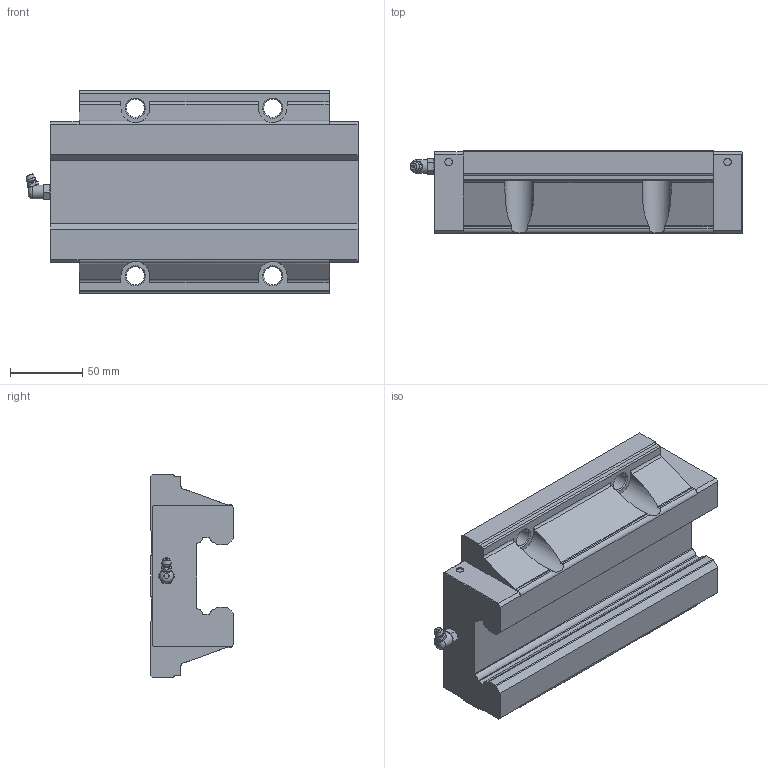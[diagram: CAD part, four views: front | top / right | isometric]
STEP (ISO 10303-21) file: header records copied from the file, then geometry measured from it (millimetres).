
FILE_DESCRIPTION(/* description */ ('STEP AP203'),/* implementation_level */ '2;1');
FILE_NAME(/* name */ 'SHS55LC1SS(GK) BLOCK(B-PT1_81)',/* time_stamp */ '2024-05-14T04:36:39+02:00',/* author */ ('License CC BY-ND 4.0'),/* organization */ ('CADENAS'),/* preprocessor_version */ 'ST-DEVELOPER v19.3',/* originating_system */ 'PARTsolutions',/* authorisation */ ' ');
FILE_SCHEMA (('CONFIG_CONTROL_DESIGN'));
Length unit declared in the file: millimetre
Products named in the file (3): SHS55LC1SS(GK) BLOCK(B-PT1/81); SHS55LCSSB-PT1/81 Slide25-55; B-PT1/8-SHS_grease_nipple_joint
Assembly tree (2 placements, depth 2):
  SHS55LC1SS(GK) BLOCK(B-PT1/81)
    SHS55LCSSB-PT1/81 Slide25-55
    B-PT1/8-SHS_grease_nipple_joint
Bounding box: 229.7 x 57.3 x 140 mm (x, y, z)
Volume: 1130385 mm3; surface area: 104812.7 mm2
Topology: 2 solids, 2 shells, 171 faces, 468 edges, 307 vertices
Faces by surface type: plane 99, cylinder 47, cone 20, torus 3, sphere 2
Full cylindrical faces by diameter (mm): 5.2 x4, 9.6 x1, 12.5 x4
Entity records: 5294 total; most frequent: CARTESIAN_POINT 1075, DIRECTION 848, ORIENTED_EDGE 834, EDGE_CURVE 417, AXIS2_PLACEMENT_3D 296, VERTEX_POINT 292, LINE 256, VECTOR 256
